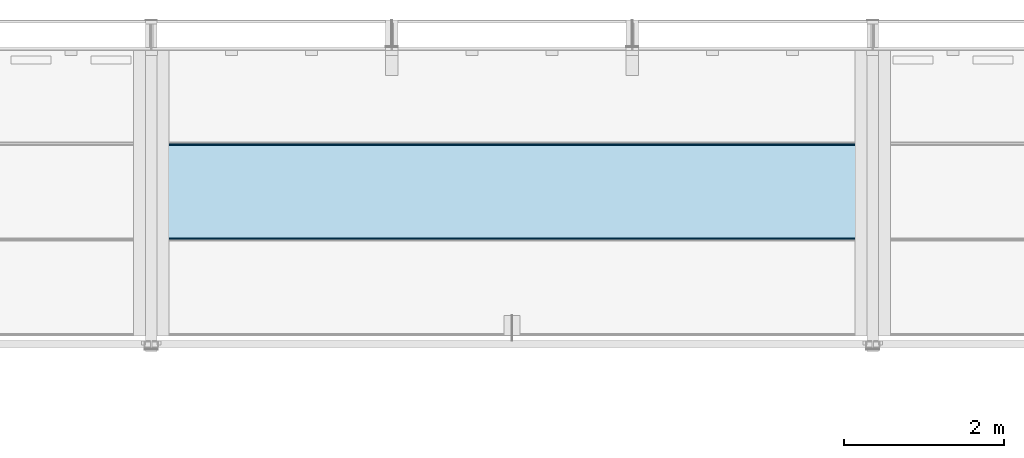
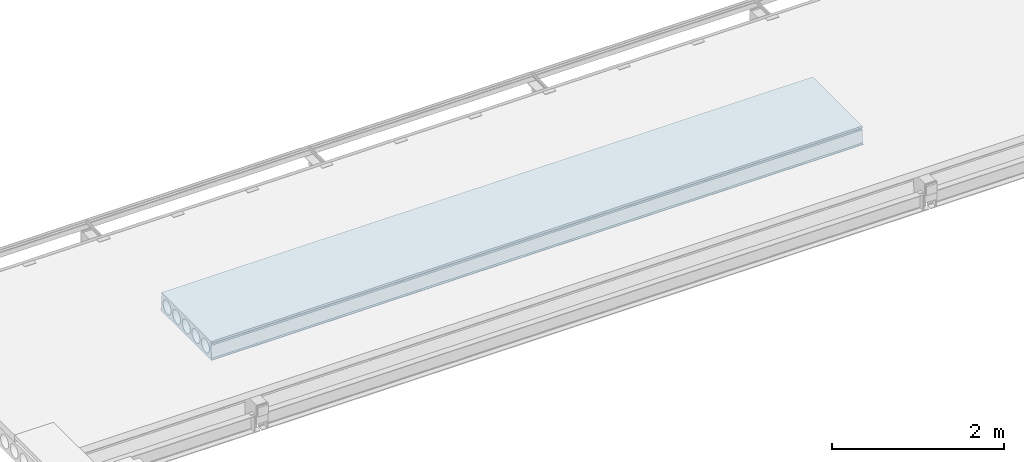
# One storey, part 5 of 8: 1 slab.
"""IFC2X3 building model written with IfcOpenShell, lengths in millimetres."""

from ifc_helpers import new_model, entity, si_unit, converted_unit, derived_unit, direction, frame, origin_with_axes, place, context, subcontext, project, spatial, polyline, outline, extrude, material, type_object, element, save


model = new_model("IFC2X3")

# Units and contexts
model_context = context("Model", 3, precision=0.01, world=frame((0.0, 4.29681676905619e-09, 0.0)), true_north=direction((4.01073788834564e-13, 1.0)))
plan_context = context("Plan", 3, precision=0.01, world=frame((0.0, 4.29681676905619e-09, 0.0)), true_north=direction((4.01073788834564e-13, 1.0)))
body_context = subcontext(model_context, "Body", "Model", "MODEL_VIEW")
ifc_project = project(units=[converted_unit("PLANEANGLEUNIT", "DEGREE", entity("IfcPositiveLengthMeasure", 0.0174532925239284), si_unit("PLANEANGLEUNIT", "RADIAN"), dimensions=[0, 0, 0, 0, 0, 0, 0]), si_unit("AREAUNIT", "SQUARE_METRE"), si_unit("LENGTHUNIT", "METRE", prefix="MILLI"), si_unit("MASSUNIT", "GRAM", prefix="KILO"), si_unit("POWERUNIT", "WATT"), si_unit("PRESSUREUNIT", "PASCAL"), si_unit("FORCEUNIT", "NEWTON", prefix="KILO"), si_unit("ELECTRICVOLTAGEUNIT", "VOLT"), si_unit("ELECTRICCURRENTUNIT", "AMPERE"), si_unit("THERMODYNAMICTEMPERATUREUNIT", "DEGREE_CELSIUS"), si_unit("TIMEUNIT", "SECOND"), si_unit("VOLUMEUNIT", "CUBIC_METRE"), derived_unit("LINEARVELOCITYUNIT", [(si_unit("LENGTHUNIT", "METRE"), 1), (si_unit("TIMEUNIT", "SECOND"), -1)]), derived_unit("VOLUMETRICFLOWRATEUNIT", [(si_unit("VOLUMEUNIT", "CUBIC_METRE"), 1), (si_unit("TIMEUNIT", "SECOND"), -1)]), derived_unit("THERMALTRANSMITTANCEUNIT", [(si_unit("POWERUNIT", "WATT"), 1), (si_unit("THERMODYNAMICTEMPERATUREUNIT", "KELVIN"), -1), (si_unit("AREAUNIT", "SQUARE_METRE"), -1)]), derived_unit("SOUNDPRESSUREUNIT", [(si_unit("PRESSUREUNIT", "PASCAL"), 1)])], contexts=[model_context, plan_context])

# Site, building, storey
site_placement = place(None, frame((0.0, -4.29681676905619e-09, 0.0), z_axis=(0.0, 0.0, 1.0), x_axis=(1.0, 0.0, 0.0)))
site = spatial("IfcSite", under=ifc_project, at=site_placement, Name="Gardermoen", CompositionType="ELEMENT")
building_placement = place(site_placement, frame((0.0, 4.29681676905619e-09, 0.0), z_axis=(0.0, 0.0, 1.0), x_axis=(1.0, 0.0, 0.0)))
building = spatial("IfcBuilding", under=site, at=building_placement, Name="TH", CompositionType="ELEMENT")
storey_placement = place(building_placement, origin_with_axes())
storey = spatial("IfcBuildingStorey", under=building, at=storey_placement, Name="G", CompositionType="ELEMENT", Elevation=0.0)

# Slab
ifc_material = material(Name="CONCRETE/C45/55")
slab_type = type_object("IfcSlabType", Name="HD265", PredefinedType="NOTDEFINED")
slab_placement = place(storey_placement, frame((898116.001717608, 482679.995344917, 213427.5), z_axis=(0.0, 0.0, 1.0), x_axis=(1.0, 0.0, 0.0)))
element("IfcSlab", 1, at=slab_placement, inside=storey, type_object=slab_type, material=ifc_material, Name="HULLDEKKE", ObjectType="HD265", PredefinedType="FLOOR", context=body_context, shape_type="SweptSolid", body=[
    extrude(outline(polyline([(-583.380004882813, -132.5), (-600.0, -122.5), (-600.0, -112.5), (-585.0, -102.5), (-577.5, 77.5), (-570.0, 92.5), (-577.5, 107.5), (-577.5, 132.5), (577.5, 132.5), (577.5, 107.5), (570.0, 92.5), (577.5, 77.5), (585.0, -102.5), (600.0, -112.5), (600.0, -122.5), (583.380004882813, -132.5), (-583.380004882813, -132.5)]), holes=[polyline([(-539.238420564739, 15.2249996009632), (-540.184065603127, 7.63858945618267), (-540.5, 0.0), (-540.184065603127, -7.63858945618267), (-539.238420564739, -15.2249996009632), (-537.669524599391, -22.7074075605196), (-535.488094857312, -30.0347009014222), (-532.709032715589, -37.1568267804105), (-529.351321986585, -44.0251338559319), (-525.437899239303, -50.5927046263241), (-520.995497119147, -56.8146759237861), (-516.05446173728, -62.6485453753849), (-510.648545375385, -68.0544617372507), (-504.814675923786, -72.9954971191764), (-498.592704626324, -77.437899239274), (-492.025133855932, -81.3513219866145), (-485.15682678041, -84.7090327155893), (-478.034700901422, -87.4880948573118), (-470.707407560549, -89.6695245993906), (-463.224999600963, -91.2384205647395), (-455.638589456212, -92.1840656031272), (-448.0, -92.5), (-440.361410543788, -92.1840656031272), (-432.775000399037, -91.2384205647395), (-425.292592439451, -89.6695245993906), (-417.965299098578, -87.4880948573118), (-410.84317321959, -84.7090327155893), (-403.974866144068, -81.3513219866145), (-397.407295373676, -77.437899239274), (-391.185324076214, -72.9954971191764), (-385.351454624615, -68.0544617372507), (-379.94553826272, -62.6485453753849), (-375.004502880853, -56.8146759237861), (-370.562100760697, -50.5927046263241), (-366.648678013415, -44.0251338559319), (-363.290967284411, -37.1568267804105), (-360.511905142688, -30.0347009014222), (-358.330475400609, -22.7074075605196), (-356.761579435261, -15.2249996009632), (-355.815934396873, -7.63858945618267), (-355.5, 0.0), (-355.815934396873, 7.63858945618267), (-356.761579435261, 15.2249996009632), (-358.330475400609, 22.7074075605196), (-360.511905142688, 30.0347009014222), (-363.290967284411, 37.1568267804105), (-366.648678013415, 44.0251338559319), (-370.562100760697, 50.5927046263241), (-375.004502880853, 56.8146759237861), (-379.94553826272, 62.6485453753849), (-385.351454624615, 68.0544617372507), (-391.185324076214, 72.9954971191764), (-397.407295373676, 77.437899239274), (-403.974866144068, 81.3513219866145), (-410.84317321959, 84.7090327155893), (-417.965299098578, 87.4880948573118), (-425.292592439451, 89.6695245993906), (-432.775000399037, 91.2384205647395), (-440.361410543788, 92.1840656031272), (-448.0, 92.5), (-455.638589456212, 92.1840656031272), (-463.224999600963, 91.2384205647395), (-470.707407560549, 89.6695245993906), (-478.034700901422, 87.4880948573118), (-485.15682678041, 84.7090327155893), (-492.025133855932, 81.3513219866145), (-498.592704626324, 77.437899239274), (-504.814675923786, 72.9954971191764), (-510.648545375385, 68.0544617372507), (-516.05446173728, 62.6485453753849), (-520.995497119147, 56.8146759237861), (-525.437899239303, 50.5927046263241), (-529.351321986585, 44.0251338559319), (-532.709032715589, 37.1568267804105), (-535.488094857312, 30.0347009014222), (-537.669524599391, 22.7074075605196), (-539.238420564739, 15.2249996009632)]), polyline([(-315.238420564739, 15.2249996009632), (-316.184065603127, 7.63858945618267), (-316.5, 0.0), (-316.184065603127, -7.63858945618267), (-315.238420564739, -15.2249996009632), (-313.669524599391, -22.7074075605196), (-311.488094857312, -30.0347009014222), (-308.709032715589, -37.1568267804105), (-305.351321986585, -44.0251338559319), (-301.437899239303, -50.5927046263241), (-296.995497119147, -56.8146759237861), (-292.05446173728, -62.6485453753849), (-286.648545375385, -68.0544617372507), (-280.814675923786, -72.9954971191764), (-274.592704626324, -77.437899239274), (-268.025133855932, -81.3513219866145), (-261.15682678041, -84.7090327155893), (-254.034700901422, -87.4880948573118), (-246.707407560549, -89.6695245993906), (-239.224999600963, -91.2384205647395), (-231.638589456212, -92.1840656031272), (-224.0, -92.5), (-216.361410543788, -92.1840656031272), (-208.775000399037, -91.2384205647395), (-201.292592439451, -89.6695245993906), (-193.965299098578, -87.4880948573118), (-186.84317321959, -84.7090327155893), (-179.974866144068, -81.3513219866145), (-173.407295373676, -77.437899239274), (-167.185324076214, -72.9954971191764), (-161.351454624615, -68.0544617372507), (-155.94553826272, -62.6485453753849), (-151.004502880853, -56.8146759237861), (-146.562100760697, -50.5927046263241), (-142.648678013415, -44.0251338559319), (-139.290967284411, -37.1568267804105), (-136.511905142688, -30.0347009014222), (-134.330475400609, -22.7074075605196), (-132.761579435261, -15.2249996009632), (-131.815934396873, -7.63858945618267), (-131.5, 0.0), (-131.815934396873, 7.63858945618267), (-132.761579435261, 15.2249996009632), (-134.330475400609, 22.7074075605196), (-136.511905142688, 30.0347009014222), (-139.290967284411, 37.1568267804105), (-142.648678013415, 44.0251338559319), (-146.562100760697, 50.5927046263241), (-151.004502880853, 56.8146759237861), (-155.94553826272, 62.6485453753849), (-161.351454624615, 68.0544617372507), (-167.185324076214, 72.9954971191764), (-173.407295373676, 77.437899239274), (-179.974866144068, 81.3513219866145), (-186.84317321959, 84.7090327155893), (-193.965299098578, 87.4880948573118), (-201.292592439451, 89.6695245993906), (-208.775000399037, 91.2384205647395), (-216.361410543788, 92.1840656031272), (-224.0, 92.5), (-231.638589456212, 92.1840656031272), (-239.224999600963, 91.2384205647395), (-246.707407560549, 89.6695245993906), (-254.034700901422, 87.4880948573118), (-261.15682678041, 84.7090327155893), (-268.025133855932, 81.3513219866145), (-274.592704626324, 77.437899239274), (-280.814675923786, 72.9954971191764), (-286.648545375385, 68.0544617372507), (-292.05446173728, 62.6485453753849), (-296.995497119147, 56.8146759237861), (-301.437899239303, 50.5927046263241), (-305.351321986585, 44.0251338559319), (-308.709032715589, 37.1568267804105), (-311.488094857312, 30.0347009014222), (-313.669524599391, 22.7074075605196), (-315.238420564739, 15.2249996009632)]), polyline([(-91.2384205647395, 15.2249996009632), (-92.1840656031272, 7.63858945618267), (-92.5, 0.0), (-92.1840656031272, -7.63858945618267), (-91.2384205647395, -15.2249996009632), (-89.6695245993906, -22.7074075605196), (-87.4880948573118, -30.0347009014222), (-84.7090327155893, -37.1568267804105), (-81.3513219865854, -44.0251338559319), (-77.4378992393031, -50.5927046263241), (-72.9954971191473, -56.8146759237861), (-68.0544617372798, -62.6485453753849), (-62.6485453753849, -68.0544617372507), (-56.8146759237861, -72.9954971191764), (-50.5927046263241, -77.437899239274), (-44.0251338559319, -81.3513219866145), (-37.1568267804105, -84.7090327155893), (-30.0347009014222, -87.4880948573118), (-22.7074075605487, -89.6695245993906), (-15.2249996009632, -91.2384205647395), (-7.63858945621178, -92.1840656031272), (0.0, -92.5), (7.63858945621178, -92.1840656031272), (15.2249996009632, -91.2384205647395), (22.7074075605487, -89.6695245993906), (30.0347009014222, -87.4880948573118), (37.1568267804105, -84.7090327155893), (44.0251338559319, -81.3513219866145), (50.5927046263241, -77.437899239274), (56.8146759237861, -72.9954971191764), (62.6485453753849, -68.0544617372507), (68.0544617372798, -62.6485453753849), (72.9954971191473, -56.8146759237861), (77.4378992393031, -50.5927046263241), (81.3513219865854, -44.0251338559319), (84.7090327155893, -37.1568267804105), (87.4880948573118, -30.0347009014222), (89.6695245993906, -22.7074075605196), (91.2384205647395, -15.2249996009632), (92.1840656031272, -7.63858945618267), (92.5, 0.0), (92.1840656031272, 7.63858945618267), (91.2384205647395, 15.2249996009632), (89.6695245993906, 22.7074075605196), (87.4880948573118, 30.0347009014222), (84.7090327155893, 37.1568267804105), (81.3513219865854, 44.0251338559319), (77.4378992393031, 50.5927046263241), (72.9954971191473, 56.8146759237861), (68.0544617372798, 62.6485453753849), (62.6485453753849, 68.0544617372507), (56.8146759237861, 72.9954971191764), (50.5927046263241, 77.437899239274), (44.0251338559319, 81.3513219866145), (37.1568267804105, 84.7090327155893), (30.0347009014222, 87.4880948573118), (22.7074075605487, 89.6695245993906), (15.2249996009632, 91.2384205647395), (7.63858945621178, 92.1840656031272), (0.0, 92.5), (-7.63858945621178, 92.1840656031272), (-15.2249996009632, 91.2384205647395), (-22.7074075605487, 89.6695245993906), (-30.0347009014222, 87.4880948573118), (-37.1568267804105, 84.7090327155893), (-44.0251338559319, 81.3513219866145), (-50.5927046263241, 77.437899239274), (-56.8146759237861, 72.9954971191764), (-62.6485453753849, 68.0544617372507), (-68.0544617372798, 62.6485453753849), (-72.9954971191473, 56.8146759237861), (-77.4378992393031, 50.5927046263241), (-81.3513219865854, 44.0251338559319), (-84.7090327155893, 37.1568267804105), (-87.4880948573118, 30.0347009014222), (-89.6695245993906, 22.7074075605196), (-91.2384205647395, 15.2249996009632)]), polyline([(132.761579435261, 15.2249996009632), (131.815934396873, 7.63858945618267), (131.5, 0.0), (131.815934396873, -7.63858945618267), (132.761579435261, -15.2249996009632), (134.330475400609, -22.7074075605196), (136.511905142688, -30.0347009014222), (139.290967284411, -37.1568267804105), (142.648678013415, -44.0251338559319), (146.562100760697, -50.5927046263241), (151.004502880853, -56.8146759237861), (155.94553826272, -62.6485453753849), (161.351454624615, -68.0544617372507), (167.185324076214, -72.9954971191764), (173.407295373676, -77.437899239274), (179.974866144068, -81.3513219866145), (186.84317321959, -84.7090327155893), (193.965299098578, -87.4880948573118), (201.292592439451, -89.6695245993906), (208.775000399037, -91.2384205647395), (216.361410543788, -92.1840656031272), (224.0, -92.5), (231.638589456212, -92.1840656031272), (239.224999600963, -91.2384205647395), (246.707407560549, -89.6695245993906), (254.034700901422, -87.4880948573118), (261.15682678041, -84.7090327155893), (268.025133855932, -81.3513219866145), (274.592704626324, -77.437899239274), (280.814675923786, -72.9954971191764), (286.648545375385, -68.0544617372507), (292.05446173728, -62.6485453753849), (296.995497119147, -56.8146759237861), (301.437899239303, -50.5927046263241), (305.351321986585, -44.0251338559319), (308.709032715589, -37.1568267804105), (311.488094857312, -30.0347009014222), (313.669524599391, -22.7074075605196), (315.238420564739, -15.2249996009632), (316.184065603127, -7.63858945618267), (316.5, 0.0), (316.184065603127, 7.63858945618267), (315.238420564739, 15.2249996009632), (313.669524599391, 22.7074075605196), (311.488094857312, 30.0347009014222), (308.709032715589, 37.1568267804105), (305.351321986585, 44.0251338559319), (301.437899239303, 50.5927046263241), (296.995497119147, 56.8146759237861), (292.05446173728, 62.6485453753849), (286.648545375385, 68.0544617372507), (280.814675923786, 72.9954971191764), (274.592704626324, 77.437899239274), (268.025133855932, 81.3513219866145), (261.15682678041, 84.7090327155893), (254.034700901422, 87.4880948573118), (246.707407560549, 89.6695245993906), (239.224999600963, 91.2384205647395), (231.638589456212, 92.1840656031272), (224.0, 92.5), (216.361410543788, 92.1840656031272), (208.775000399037, 91.2384205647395), (201.292592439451, 89.6695245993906), (193.965299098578, 87.4880948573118), (186.84317321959, 84.7090327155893), (179.974866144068, 81.3513219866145), (173.407295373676, 77.437899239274), (167.185324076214, 72.9954971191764), (161.351454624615, 68.0544617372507), (155.94553826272, 62.6485453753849), (151.004502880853, 56.8146759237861), (146.562100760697, 50.5927046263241), (142.648678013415, 44.0251338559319), (139.290967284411, 37.1568267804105), (136.511905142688, 30.0347009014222), (134.330475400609, 22.7074075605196), (132.761579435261, 15.2249996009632)]), polyline([(356.761579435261, 15.2249996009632), (355.815934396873, 7.63858945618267), (355.5, 0.0), (355.815934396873, -7.63858945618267), (356.761579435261, -15.2249996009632), (358.330475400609, -22.7074075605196), (360.511905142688, -30.0347009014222), (363.290967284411, -37.1568267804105), (366.648678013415, -44.0251338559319), (370.562100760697, -50.5927046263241), (375.004502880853, -56.8146759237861), (379.94553826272, -62.6485453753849), (385.351454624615, -68.0544617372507), (391.185324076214, -72.9954971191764), (397.407295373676, -77.437899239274), (403.974866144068, -81.3513219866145), (410.84317321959, -84.7090327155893), (417.965299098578, -87.4880948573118), (425.292592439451, -89.6695245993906), (432.775000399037, -91.2384205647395), (440.361410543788, -92.1840656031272), (448.0, -92.5), (455.638589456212, -92.1840656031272), (463.224999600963, -91.2384205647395), (470.707407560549, -89.6695245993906), (478.034700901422, -87.4880948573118), (485.15682678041, -84.7090327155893), (492.025133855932, -81.3513219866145), (498.592704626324, -77.437899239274), (504.814675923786, -72.9954971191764), (510.648545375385, -68.0544617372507), (516.05446173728, -62.6485453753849), (520.995497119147, -56.8146759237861), (525.437899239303, -50.5927046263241), (529.351321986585, -44.0251338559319), (532.709032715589, -37.1568267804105), (535.488094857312, -30.0347009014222), (537.669524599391, -22.7074075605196), (539.238420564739, -15.2249996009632), (540.184065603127, -7.63858945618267), (540.5, 0.0), (540.184065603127, 7.63858945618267), (539.238420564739, 15.2249996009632), (537.669524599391, 22.7074075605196), (535.488094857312, 30.0347009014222), (532.709032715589, 37.1568267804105), (529.351321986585, 44.0251338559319), (525.437899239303, 50.5927046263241), (520.995497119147, 56.8146759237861), (516.05446173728, 62.6485453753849), (510.648545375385, 68.0544617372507), (504.814675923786, 72.9954971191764), (498.592704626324, 77.437899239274), (492.025133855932, 81.3513219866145), (485.15682678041, 84.7090327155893), (478.034700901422, 87.4880948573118), (470.707407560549, 89.6695245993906), (463.224999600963, 91.2384205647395), (455.638589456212, 92.1840656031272), (448.0, 92.5), (440.361410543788, 92.1840656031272), (432.775000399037, 91.2384205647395), (425.292592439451, 89.6695245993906), (417.965299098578, 87.4880948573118), (410.84317321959, 84.7090327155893), (403.974866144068, 81.3513219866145), (397.407295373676, 77.437899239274), (391.185324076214, 72.9954971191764), (385.351454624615, 68.0544617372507), (379.94553826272, 62.6485453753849), (375.004502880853, 56.8146759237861), (370.562100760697, 50.5927046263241), (366.648678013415, 44.0251338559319), (363.290967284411, 37.1568267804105), (360.511905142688, 30.0347009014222), (358.330475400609, 22.7074075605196), (356.761579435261, 15.2249996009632)])]), frame((8768.0, 0.0, 0.0), z_axis=(-1.0, 0.0, 6.61744490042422e-24), x_axis=(0.0, -1.0, 0.0)), (0.0, 0.0, 1.0), 8768.0),
])

save(model, "model.ifc")
